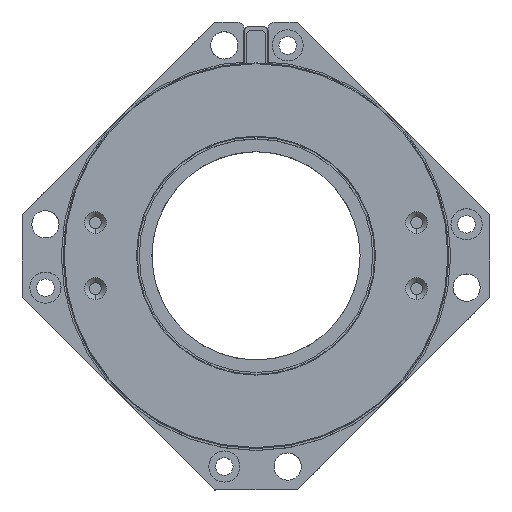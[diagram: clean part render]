
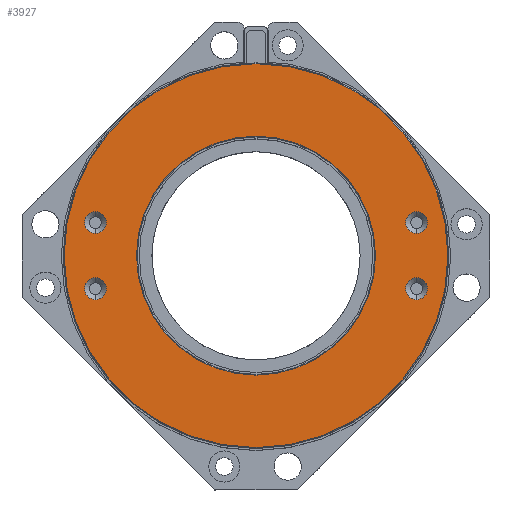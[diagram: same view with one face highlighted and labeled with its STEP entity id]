
A CAD part, top view. The second image highlights one B-rep face of the part: STEP entity #3927.
In plain terms, the highlighted planar face has unit normal (0, 0, 1).
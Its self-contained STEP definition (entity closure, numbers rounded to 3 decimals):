
#63 = VERTEX_POINT ( 'NONE', #8957 ) ;
#114 = AXIS2_PLACEMENT_3D ( 'NONE', #6351, #7062, #10316 ) ;
#361 = VERTEX_POINT ( 'NONE', #2717 ) ;
#524 = VERTEX_POINT ( 'NONE', #1231 ) ;
#565 = ORIENTED_EDGE ( 'NONE', *, *, #6672, .F. ) ;
#644 = EDGE_CURVE ( 'NONE', #10419, #7914, #7332, .T. ) ;
#754 = EDGE_CURVE ( 'NONE', #4138, #6049, #5645, .T. ) ;
#903 = CARTESIAN_POINT ( 'NONE',  ( -58.614, -16.521, 21.279 ) ) ;
#912 = CIRCLE ( 'NONE', #4602, 49.3 ) ;
#1141 = AXIS2_PLACEMENT_3D ( 'NONE', #2502, #9870, #3369 ) ;
#1154 = ORIENTED_EDGE ( 'NONE', *, *, #4103, .F. ) ;
#1179 = CARTESIAN_POINT ( 'NONE',  ( 23.886, -16.521, 21.279 ) ) ;
#1231 = CARTESIAN_POINT ( 'NONE',  ( -58.614, -10.921, 21.279 ) ) ;
#1325 = ORIENTED_EDGE ( 'NONE', *, *, #9478, .F. ) ;
#1402 = EDGE_CURVE ( 'NONE', #63, #361, #1690, .T. ) ;
#1488 = CARTESIAN_POINT ( 'NONE',  ( 23.886, -10.921, 21.279 ) ) ;
#1633 = ORIENTED_EDGE ( 'NONE', *, *, #4485, .F. ) ;
#1690 = CIRCLE ( 'NONE', #8502, 30.7 ) ;
#1847 = CARTESIAN_POINT ( 'NONE',  ( -58.614, 3.279, 21.279 ) ) ;
#1927 = EDGE_CURVE ( 'NONE', #6131, #5297, #912, .T. ) ;
#1947 = DIRECTION ( 'NONE',  ( 0., 0., 1. ) ) ;
#2238 = DIRECTION ( 'NONE',  ( 0., -1., 0. ) ) ;
#2268 = DIRECTION ( 'NONE',  ( 0., 1., 0. ) ) ;
#2286 = EDGE_LOOP ( 'NONE', ( #1325, #3329 ) ) ;
#2316 = FACE_BOUND ( 'NONE', #3506, .T. ) ;
#2502 = CARTESIAN_POINT ( 'NONE',  ( -17.364, -5.221, 21.279 ) ) ;
#2717 = CARTESIAN_POINT ( 'NONE',  ( -17.364, -35.921, 21.279 ) ) ;
#2889 = CARTESIAN_POINT ( 'NONE',  ( -58.614, 0.479, 21.279 ) ) ;
#3135 = CIRCLE ( 'NONE', #8219, 2.8 ) ;
#3136 = DIRECTION ( 'NONE',  ( 0., 0., 1. ) ) ;
#3152 = CARTESIAN_POINT ( 'NONE',  ( 23.886, -13.721, 21.279 ) ) ;
#3174 = DIRECTION ( 'NONE',  ( 0., 0., 1. ) ) ;
#3285 = CARTESIAN_POINT ( 'NONE',  ( -58.614, -13.721, 21.279 ) ) ;
#3300 = CARTESIAN_POINT ( 'NONE',  ( 23.886, 3.279, 21.279 ) ) ;
#3329 = ORIENTED_EDGE ( 'NONE', *, *, #644, .F. ) ;
#3369 = DIRECTION ( 'NONE',  ( 0., -1., 0. ) ) ;
#3506 = EDGE_LOOP ( 'NONE', ( #4599, #565 ) ) ;
#3617 = FACE_BOUND ( 'NONE', #8789, .T. ) ;
#3624 = DIRECTION ( 'NONE',  ( 0., 1., 0. ) ) ;
#3785 = AXIS2_PLACEMENT_3D ( 'NONE', #7217, #3136, #2268 ) ;
#3872 = AXIS2_PLACEMENT_3D ( 'NONE', #10180, #8486, #5263 ) ;
#3927 = ADVANCED_FACE ( 'NONE', ( #9923, #7237, #3617, #8542, #4520, #2316 ), #7448, .F. ) ;
#4015 = EDGE_LOOP ( 'NONE', ( #5685, #8884 ) ) ;
#4103 = EDGE_CURVE ( 'NONE', #4956, #524, #5422, .T. ) ;
#4138 = VERTEX_POINT ( 'NONE', #4724 ) ;
#4245 = CARTESIAN_POINT ( 'NONE',  ( 23.886, 0.479, 21.279 ) ) ;
#4257 = DIRECTION ( 'NONE',  ( 0., 1., 0. ) ) ;
#4485 = EDGE_CURVE ( 'NONE', #10166, #8842, #10601, .T. ) ;
#4520 = FACE_BOUND ( 'NONE', #2286, .T. ) ;
#4546 = DIRECTION ( 'NONE',  ( 0., -1., 0. ) ) ;
#4599 = ORIENTED_EDGE ( 'NONE', *, *, #754, .F. ) ;
#4602 = AXIS2_PLACEMENT_3D ( 'NONE', #6553, #3174, #7588 ) ;
#4612 = ORIENTED_EDGE ( 'NONE', *, *, #7359, .F. ) ;
#4724 = CARTESIAN_POINT ( 'NONE',  ( 23.886, 6.079, 21.279 ) ) ;
#4807 = DIRECTION ( 'NONE',  ( 0., 0., 1. ) ) ;
#4823 = DIRECTION ( 'NONE',  ( 0., 0., 1. ) ) ;
#4940 = CIRCLE ( 'NONE', #7803, 2.8 ) ;
#4956 = VERTEX_POINT ( 'NONE', #903 ) ;
#5024 = CARTESIAN_POINT ( 'NONE',  ( -58.614, 6.079, 21.279 ) ) ;
#5095 = EDGE_LOOP ( 'NONE', ( #10487, #10403 ) ) ;
#5126 = DIRECTION ( 'NONE',  ( 0., 0., 1. ) ) ;
#5263 = DIRECTION ( 'NONE',  ( 0., 1., 0. ) ) ;
#5297 = VERTEX_POINT ( 'NONE', #6412 ) ;
#5422 = CIRCLE ( 'NONE', #3785, 2.8 ) ;
#5645 = CIRCLE ( 'NONE', #7211, 2.8 ) ;
#5685 = ORIENTED_EDGE ( 'NONE', *, *, #9182, .T. ) ;
#5792 = CIRCLE ( 'NONE', #114, 2.8 ) ;
#5906 = DIRECTION ( 'NONE',  ( 0., 0., 1. ) ) ;
#5951 = AXIS2_PLACEMENT_3D ( 'NONE', #10081, #5906, #8512 ) ;
#6049 = VERTEX_POINT ( 'NONE', #4245 ) ;
#6131 = VERTEX_POINT ( 'NONE', #9328 ) ;
#6321 = EDGE_CURVE ( 'NONE', #361, #63, #9216, .T. ) ;
#6351 = CARTESIAN_POINT ( 'NONE',  ( 23.886, -13.721, 21.279 ) ) ;
#6412 = CARTESIAN_POINT ( 'NONE',  ( -17.364, -54.521, 21.279 ) ) ;
#6491 = ORIENTED_EDGE ( 'NONE', *, *, #9201, .F. ) ;
#6553 = CARTESIAN_POINT ( 'NONE',  ( -17.364, -5.221, 21.279 ) ) ;
#6672 = EDGE_CURVE ( 'NONE', #6049, #4138, #3135, .T. ) ;
#6923 = CARTESIAN_POINT ( 'NONE',  ( 23.886, 3.279, 21.279 ) ) ;
#7062 = DIRECTION ( 'NONE',  ( 0., 0., 1. ) ) ;
#7186 = CARTESIAN_POINT ( 'NONE',  ( -17.364, -5.221, 21.279 ) ) ;
#7211 = AXIS2_PLACEMENT_3D ( 'NONE', #3300, #9074, #10708 ) ;
#7217 = CARTESIAN_POINT ( 'NONE',  ( -58.614, -13.721, 21.279 ) ) ;
#7237 = FACE_BOUND ( 'NONE', #5095, .T. ) ;
#7332 = CIRCLE ( 'NONE', #7779, 2.8 ) ;
#7359 = EDGE_CURVE ( 'NONE', #524, #4956, #4940, .T. ) ;
#7448 = PLANE ( 'NONE',  #1141 ) ;
#7539 = AXIS2_PLACEMENT_3D ( 'NONE', #7186, #10370, #2238 ) ;
#7588 = DIRECTION ( 'NONE',  ( 0., -1., 0. ) ) ;
#7779 = AXIS2_PLACEMENT_3D ( 'NONE', #3152, #4823, #9110 ) ;
#7803 = AXIS2_PLACEMENT_3D ( 'NONE', #3285, #4807, #10541 ) ;
#7806 = DIRECTION ( 'NONE',  ( 0., 0., -1. ) ) ;
#7914 = VERTEX_POINT ( 'NONE', #1488 ) ;
#8219 = AXIS2_PLACEMENT_3D ( 'NONE', #6923, #1947, #3624 ) ;
#8377 = CARTESIAN_POINT ( 'NONE',  ( -17.364, -5.221, 21.279 ) ) ;
#8486 = DIRECTION ( 'NONE',  ( 0., 0., 1. ) ) ;
#8502 = AXIS2_PLACEMENT_3D ( 'NONE', #8377, #7806, #4546 ) ;
#8512 = DIRECTION ( 'NONE',  ( 0., -1., 0. ) ) ;
#8542 = FACE_BOUND ( 'NONE', #9634, .T. ) ;
#8783 = CIRCLE ( 'NONE', #9941, 2.8 ) ;
#8789 = EDGE_LOOP ( 'NONE', ( #4612, #1154 ) ) ;
#8842 = VERTEX_POINT ( 'NONE', #2889 ) ;
#8884 = ORIENTED_EDGE ( 'NONE', *, *, #1927, .T. ) ;
#8957 = CARTESIAN_POINT ( 'NONE',  ( -17.364, 25.479, 21.279 ) ) ;
#9074 = DIRECTION ( 'NONE',  ( 0., 0., 1. ) ) ;
#9110 = DIRECTION ( 'NONE',  ( 0., 1., 0. ) ) ;
#9182 = EDGE_CURVE ( 'NONE', #5297, #6131, #9297, .T. ) ;
#9201 = EDGE_CURVE ( 'NONE', #8842, #10166, #8783, .T. ) ;
#9216 = CIRCLE ( 'NONE', #7539, 30.7 ) ;
#9297 = CIRCLE ( 'NONE', #5951, 49.3 ) ;
#9328 = CARTESIAN_POINT ( 'NONE',  ( -17.364, 44.079, 21.279 ) ) ;
#9478 = EDGE_CURVE ( 'NONE', #7914, #10419, #5792, .T. ) ;
#9634 = EDGE_LOOP ( 'NONE', ( #1633, #6491 ) ) ;
#9870 = DIRECTION ( 'NONE',  ( 0., 0., -1. ) ) ;
#9923 = FACE_OUTER_BOUND ( 'NONE', #4015, .T. ) ;
#9941 = AXIS2_PLACEMENT_3D ( 'NONE', #1847, #5126, #4257 ) ;
#10081 = CARTESIAN_POINT ( 'NONE',  ( -17.364, -5.221, 21.279 ) ) ;
#10166 = VERTEX_POINT ( 'NONE', #5024 ) ;
#10180 = CARTESIAN_POINT ( 'NONE',  ( -58.614, 3.279, 21.279 ) ) ;
#10316 = DIRECTION ( 'NONE',  ( 0., 1., 0. ) ) ;
#10370 = DIRECTION ( 'NONE',  ( 0., 0., -1. ) ) ;
#10403 = ORIENTED_EDGE ( 'NONE', *, *, #6321, .T. ) ;
#10419 = VERTEX_POINT ( 'NONE', #1179 ) ;
#10487 = ORIENTED_EDGE ( 'NONE', *, *, #1402, .T. ) ;
#10541 = DIRECTION ( 'NONE',  ( 0., 1., 0. ) ) ;
#10601 = CIRCLE ( 'NONE', #3872, 2.8 ) ;
#10708 = DIRECTION ( 'NONE',  ( 0., 1., 0. ) ) ;
